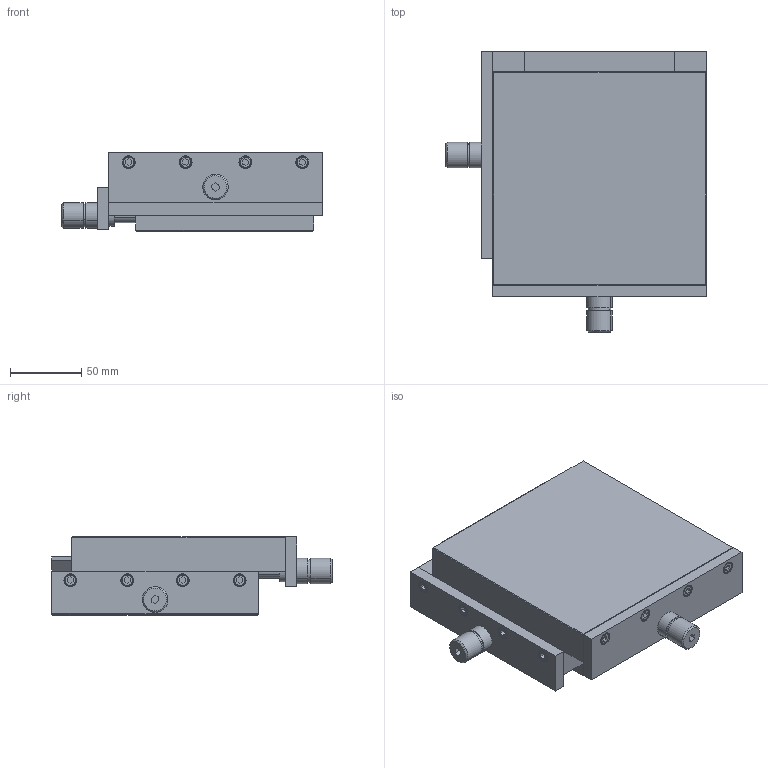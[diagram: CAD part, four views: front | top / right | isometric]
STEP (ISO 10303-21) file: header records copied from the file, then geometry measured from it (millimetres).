
FILE_DESCRIPTION(('STEP AP214'),'1');
FILE_NAME('tmp0.stp','2020-10-01T14:33:38',(' '),(' '),'Spatial InterOp 3D',' ',' ');
FILE_SCHEMA(('automotive_design'));
Length unit declared in the file: millimetre
Products named in the file (17): B150A_StepAP203|NONE#DIN_912;NONE; B150A_StepAP203|NONE#402.850.00;NONE; B150A_StepAP203|NONE#402.839.00;NONE; B150A_StepAP203|NONE#402.846.00;NONE; B150A_StepAP203|NONE#402.842.00;NONE; B150A_StepAP203|NONE#403.341.00;NONE; B150A_StepAP203|NONE#402.844.00;NONE; 1
Bounding box: 183.04 x 197 x 55 mm (x, y, z)
Volume: 1186111.5 mm3; surface area: 239564.8 mm2
Topology: 17 solids, 17 shells, 440 faces, 1024 edges, 640 vertices
Faces by surface type: plane 200, cylinder 168, cone 56, torus 16
Entity records: 16918 total; most frequent: CARTESIAN_POINT 2782, DIRECTION 2234, ORIENTED_EDGE 1984, EDGE_CURVE 992, AXIS2_PLACEMENT_3D 821, VERTEX_POINT 640, LINE 592, VECTOR 592
